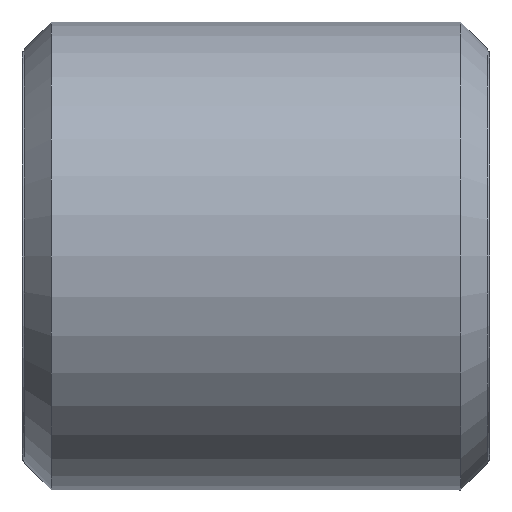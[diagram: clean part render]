
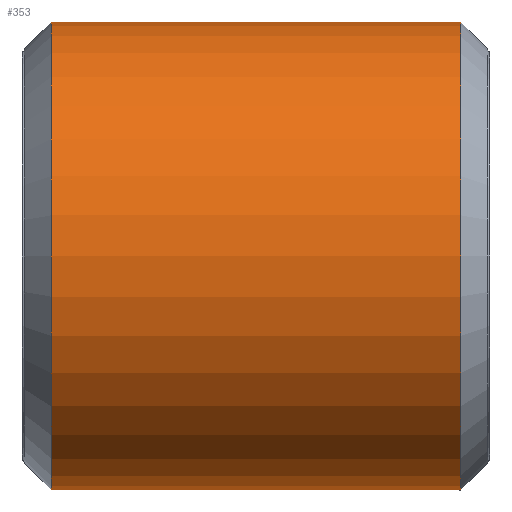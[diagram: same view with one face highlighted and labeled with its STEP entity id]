
A CAD part, left-side view. The second image highlights one B-rep face of the part: STEP entity #353.
In plain terms, the highlighted cylindrical face has radius 4 mm (diameter 8 mm), a partial arc.
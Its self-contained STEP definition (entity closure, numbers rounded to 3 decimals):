
#11 = ORIENTED_EDGE ( 'NONE', *, *, #356, .F. ) ;
#21 = DIRECTION ( 'NONE',  ( 0., -1., 0. ) ) ;
#50 = AXIS2_PLACEMENT_3D ( 'NONE', #480, #21, #571 ) ;
#93 = CYLINDRICAL_SURFACE ( 'NONE', #489, 4. ) ;
#94 = EDGE_CURVE ( 'NONE', #348, #607, #334, .T. ) ;
#104 = AXIS2_PLACEMENT_3D ( 'NONE', #574, #415, #271 ) ;
#190 = CARTESIAN_POINT ( 'NONE',  ( 0., 4., 0. ) ) ;
#192 = FACE_OUTER_BOUND ( 'NONE', #448, .T. ) ;
#212 = VECTOR ( 'NONE', #483, 1000. ) ;
#220 = CARTESIAN_POINT ( 'NONE',  ( 0., 0.5, 4. ) ) ;
#271 = DIRECTION ( 'NONE',  ( 0., 0., -1. ) ) ;
#287 = DIRECTION ( 'NONE',  ( 0., -1., 0. ) ) ;
#312 = EDGE_CURVE ( 'NONE', #557, #348, #562, .T. ) ;
#331 = DIRECTION ( 'NONE',  ( 0., -1., 0. ) ) ;
#334 = LINE ( 'NONE', #532, #212 ) ;
#345 = VERTEX_POINT ( 'NONE', #220 ) ;
#348 = VERTEX_POINT ( 'NONE', #430 ) ;
#353 = ADVANCED_FACE ( 'NONE', ( #192 ), #93, .T. ) ;
#356 = EDGE_CURVE ( 'NONE', #557, #345, #387, .T. ) ;
#357 = ORIENTED_EDGE ( 'NONE', *, *, #94, .T. ) ;
#360 = VECTOR ( 'NONE', #331, 1000. ) ;
#387 = LINE ( 'NONE', #638, #360 ) ;
#389 = DIRECTION ( 'NONE',  ( 0., 0., -1. ) ) ;
#415 = DIRECTION ( 'NONE',  ( 0., 1., 0. ) ) ;
#430 = CARTESIAN_POINT ( 'NONE',  ( 0., 7.5, -4. ) ) ;
#448 = EDGE_LOOP ( 'NONE', ( #11, #613, #357, #563 ) ) ;
#461 = CARTESIAN_POINT ( 'NONE',  ( 0., 0.5, -4. ) ) ;
#480 = CARTESIAN_POINT ( 'NONE',  ( 0., 7.5, 0. ) ) ;
#483 = DIRECTION ( 'NONE',  ( 0., -1., 0. ) ) ;
#489 = AXIS2_PLACEMENT_3D ( 'NONE', #190, #287, #389 ) ;
#532 = CARTESIAN_POINT ( 'NONE',  ( 0., 4., -4. ) ) ;
#557 = VERTEX_POINT ( 'NONE', #590 ) ;
#559 = CIRCLE ( 'NONE', #104, 4. ) ;
#562 = CIRCLE ( 'NONE', #50, 4. ) ;
#563 = ORIENTED_EDGE ( 'NONE', *, *, #621, .T. ) ;
#571 = DIRECTION ( 'NONE',  ( 0., 0., 1. ) ) ;
#574 = CARTESIAN_POINT ( 'NONE',  ( 0., 0.5, 0. ) ) ;
#590 = CARTESIAN_POINT ( 'NONE',  ( 0., 7.5, 4. ) ) ;
#607 = VERTEX_POINT ( 'NONE', #461 ) ;
#613 = ORIENTED_EDGE ( 'NONE', *, *, #312, .T. ) ;
#621 = EDGE_CURVE ( 'NONE', #607, #345, #559, .T. ) ;
#638 = CARTESIAN_POINT ( 'NONE',  ( 0., 4., 4. ) ) ;
